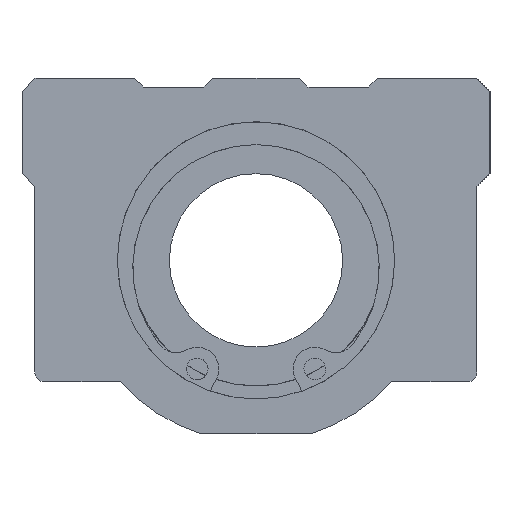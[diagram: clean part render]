
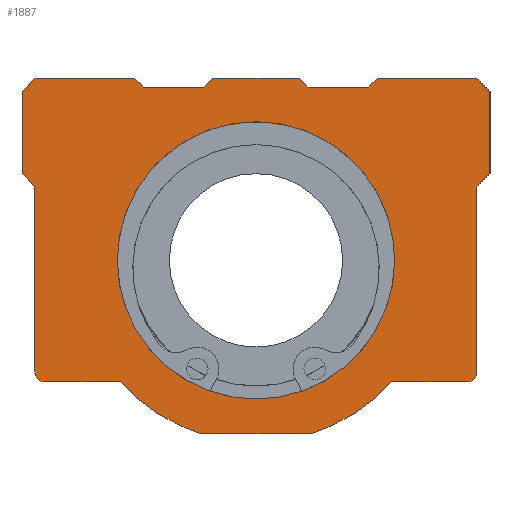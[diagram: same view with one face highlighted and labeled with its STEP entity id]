
A CAD part, left-side view. The second image highlights one B-rep face of the part: STEP entity #1887.
In plain terms, the highlighted planar face has unit normal (-1, 0, 0).
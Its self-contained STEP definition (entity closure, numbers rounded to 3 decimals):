
#1185=CARTESIAN_POINT('',(0.0,16.0,0.));
#1186=VERTEX_POINT('',#1185);
#1187=CARTESIAN_POINT('',(0.0,0.0,0.0));
#1188=DIRECTION('',(1.0,0.0,0.0));
#1189=DIRECTION('',(0.0,-1.0,0.0));
#1190=AXIS2_PLACEMENT_3D('',#1187,#1188,#1189);
#1191=CIRCLE('',#1190,16.0);
#1192=EDGE_CURVE('',#1186,#1186,#1191,.T.);
#1298=CARTESIAN_POINT('',(0.0,6.,20.));
#1299=VERTEX_POINT('',#1298);
#1300=CARTESIAN_POINT('',(0.0,5.,21.));
#1301=VERTEX_POINT('',#1300);
#1302=CARTESIAN_POINT('',(0.0,6.,20.));
#1303=DIRECTION('',(0.0,-0.707,0.707));
#1304=VECTOR('',#1303,1.414);
#1305=LINE('',#1302,#1304);
#1306=EDGE_CURVE('',#1299,#1301,#1305,.T.);
#1348=CARTESIAN_POINT('',(0.0,-5.,21.));
#1349=VERTEX_POINT('',#1348);
#1356=CARTESIAN_POINT('',(0.0,-6.,20.));
#1357=VERTEX_POINT('',#1356);
#1358=CARTESIAN_POINT('',(0.0,-5.,21.));
#1359=DIRECTION('',(0.0,-0.707,-0.707));
#1360=VECTOR('',#1359,1.414);
#1361=LINE('',#1358,#1360);
#1362=EDGE_CURVE('',#1349,#1357,#1361,.T.);
#1385=CARTESIAN_POINT('',(0.0,5.,21.));
#1386=DIRECTION('',(0.0,-1.0,0.0));
#1387=VECTOR('',#1386,10.);
#1388=LINE('',#1385,#1387);
#1389=EDGE_CURVE('',#1301,#1349,#1388,.T.);
#1409=CARTESIAN_POINT('',(0.0,13.0,20.));
#1410=VERTEX_POINT('',#1409);
#1417=CARTESIAN_POINT('',(0.0,13.0,20.));
#1418=DIRECTION('',(0.0,-1.0,0.0));
#1419=VECTOR('',#1418,7.);
#1420=LINE('',#1417,#1419);
#1421=EDGE_CURVE('',#1410,#1299,#1420,.T.);
#1432=CARTESIAN_POINT('',(0.0,-13.,20.));
#1433=VERTEX_POINT('',#1432);
#1434=CARTESIAN_POINT('',(0.0,-6.,20.));
#1435=DIRECTION('',(0.0,-1.0,0.0));
#1436=VECTOR('',#1435,7.);
#1437=LINE('',#1434,#1436);
#1438=EDGE_CURVE('',#1357,#1433,#1437,.T.);
#1473=CARTESIAN_POINT('',(0.0,24.5,-14.));
#1474=VERTEX_POINT('',#1473);
#1481=CARTESIAN_POINT('',(0.0,25.5,-13.));
#1482=VERTEX_POINT('',#1481);
#1483=CARTESIAN_POINT('',(0.0,24.5,-13.));
#1484=DIRECTION('',(1.,0.0,0.0));
#1485=DIRECTION('',(0.0,0.707,-0.707));
#1486=AXIS2_PLACEMENT_3D('',#1483,#1484,#1485);
#1487=CIRCLE('',#1486,1.);
#1488=EDGE_CURVE('',#1474,#1482,#1487,.T.);
#1513=CARTESIAN_POINT('',(0.0,15.652,-14.));
#1514=VERTEX_POINT('',#1513);
#1521=CARTESIAN_POINT('',(0.0,15.652,-14.));
#1522=DIRECTION('',(0.0,1.0,0.0));
#1523=VECTOR('',#1522,8.848);
#1524=LINE('',#1521,#1523);
#1525=EDGE_CURVE('',#1514,#1474,#1524,.T.);
#1719=CARTESIAN_POINT('',(0.0,-25.5,-13.));
#1720=VERTEX_POINT('',#1719);
#1727=CARTESIAN_POINT('',(0.0,-24.5,-14.));
#1728=VERTEX_POINT('',#1727);
#1729=CARTESIAN_POINT('',(0.0,-24.5,-13.));
#1730=DIRECTION('',(1.,0.0,0.0));
#1731=DIRECTION('',(0.0,-0.707,-0.707));
#1732=AXIS2_PLACEMENT_3D('',#1729,#1730,#1731);
#1733=CIRCLE('',#1732,1.);
#1734=EDGE_CURVE('',#1720,#1728,#1733,.T.);
#1745=CARTESIAN_POINT('',(0.0,0.,2.194));
#1746=DIRECTION('',(1.0,0.0,0.0));
#1747=DIRECTION('',(0.0,0.0,-1.0));
#1748=AXIS2_PLACEMENT_3D('',#1745,#1746,#1747);
#1749=PLANE('',#1748);
#1750=ORIENTED_EDGE('',*,*,#1488,.F.);
#1751=ORIENTED_EDGE('',*,*,#1525,.F.);
#1752=CARTESIAN_POINT('',(0.0,6.403,-20.));
#1753=VERTEX_POINT('',#1752);
#1754=CARTESIAN_POINT('',(0.0,0.0,0.0));
#1755=DIRECTION('',(1.,0.0,0.0));
#1756=DIRECTION('',(0.0,0.305,-0.952));
#1757=AXIS2_PLACEMENT_3D('',#1754,#1755,#1756);
#1758=CIRCLE('',#1757,21.0);
#1759=EDGE_CURVE('',#1753,#1514,#1758,.T.);
#1760=ORIENTED_EDGE('',*,*,#1759,.F.);
#1761=CARTESIAN_POINT('',(0.0,-6.403,-20.));
#1762=VERTEX_POINT('',#1761);
#1763=CARTESIAN_POINT('',(0.0,-6.403,-20.));
#1764=DIRECTION('',(0.0,1.0,0.0));
#1765=VECTOR('',#1764,12.806);
#1766=LINE('',#1763,#1765);
#1767=EDGE_CURVE('',#1762,#1753,#1766,.T.);
#1768=ORIENTED_EDGE('',*,*,#1767,.F.);
#1769=CARTESIAN_POINT('',(0.0,-15.652,-14.));
#1770=VERTEX_POINT('',#1769);
#1771=CARTESIAN_POINT('',(0.0,0.0,0.0));
#1772=DIRECTION('',(1.,0.0,0.0));
#1773=DIRECTION('',(0.0,0.305,-0.952));
#1774=AXIS2_PLACEMENT_3D('',#1771,#1772,#1773);
#1775=CIRCLE('',#1774,21.0);
#1776=EDGE_CURVE('',#1770,#1762,#1775,.T.);
#1777=ORIENTED_EDGE('',*,*,#1776,.F.);
#1778=CARTESIAN_POINT('',(0.0,-24.5,-14.));
#1779=DIRECTION('',(0.0,1.0,0.0));
#1780=VECTOR('',#1779,8.848);
#1781=LINE('',#1778,#1780);
#1782=EDGE_CURVE('',#1728,#1770,#1781,.T.);
#1783=ORIENTED_EDGE('',*,*,#1782,.F.);
#1784=ORIENTED_EDGE('',*,*,#1734,.F.);
#1785=CARTESIAN_POINT('',(0.0,-25.5,8.5));
#1786=VERTEX_POINT('',#1785);
#1787=CARTESIAN_POINT('',(0.0,-25.5,8.5));
#1788=DIRECTION('',(0.0,0.0,-1.0));
#1789=VECTOR('',#1788,21.5);
#1790=LINE('',#1787,#1789);
#1791=EDGE_CURVE('',#1786,#1720,#1790,.T.);
#1792=ORIENTED_EDGE('',*,*,#1791,.F.);
#1793=CARTESIAN_POINT('',(0.0,-27.0,10.));
#1794=VERTEX_POINT('',#1793);
#1795=CARTESIAN_POINT('',(0.0,-27.0,10.));
#1796=DIRECTION('',(0.0,0.707,-0.707));
#1797=VECTOR('',#1796,2.121);
#1798=LINE('',#1795,#1797);
#1799=EDGE_CURVE('',#1794,#1786,#1798,.T.);
#1800=ORIENTED_EDGE('',*,*,#1799,.F.);
#1801=CARTESIAN_POINT('',(0.0,-27.0,19.5));
#1802=VERTEX_POINT('',#1801);
#1803=CARTESIAN_POINT('',(0.0,-27.0,19.5));
#1804=DIRECTION('',(0.0,0.0,-1.0));
#1805=VECTOR('',#1804,9.5);
#1806=LINE('',#1803,#1805);
#1807=EDGE_CURVE('',#1802,#1794,#1806,.T.);
#1808=ORIENTED_EDGE('',*,*,#1807,.F.);
#1809=CARTESIAN_POINT('',(0.0,-25.5,21.));
#1810=VERTEX_POINT('',#1809);
#1811=CARTESIAN_POINT('',(0.0,-25.5,21.));
#1812=DIRECTION('',(0.0,-0.707,-0.707));
#1813=VECTOR('',#1812,2.121);
#1814=LINE('',#1811,#1813);
#1815=EDGE_CURVE('',#1810,#1802,#1814,.T.);
#1816=ORIENTED_EDGE('',*,*,#1815,.F.);
#1817=CARTESIAN_POINT('',(0.0,-14.,21.));
#1818=VERTEX_POINT('',#1817);
#1819=CARTESIAN_POINT('',(0.0,-14.,21.));
#1820=DIRECTION('',(0.0,-1.0,0.0));
#1821=VECTOR('',#1820,11.5);
#1822=LINE('',#1819,#1821);
#1823=EDGE_CURVE('',#1818,#1810,#1822,.T.);
#1824=ORIENTED_EDGE('',*,*,#1823,.F.);
#1825=CARTESIAN_POINT('',(0.0,-13.,20.));
#1826=DIRECTION('',(0.0,-0.707,0.707));
#1827=VECTOR('',#1826,1.414);
#1828=LINE('',#1825,#1827);
#1829=EDGE_CURVE('',#1433,#1818,#1828,.T.);
#1830=ORIENTED_EDGE('',*,*,#1829,.F.);
#1831=ORIENTED_EDGE('',*,*,#1438,.F.);
#1832=ORIENTED_EDGE('',*,*,#1362,.F.);
#1833=ORIENTED_EDGE('',*,*,#1389,.F.);
#1834=ORIENTED_EDGE('',*,*,#1306,.F.);
#1835=ORIENTED_EDGE('',*,*,#1421,.F.);
#1836=CARTESIAN_POINT('',(0.0,14.,21.));
#1837=VERTEX_POINT('',#1836);
#1838=CARTESIAN_POINT('',(0.0,14.,21.));
#1839=DIRECTION('',(0.0,-0.707,-0.707));
#1840=VECTOR('',#1839,1.414);
#1841=LINE('',#1838,#1840);
#1842=EDGE_CURVE('',#1837,#1410,#1841,.T.);
#1843=ORIENTED_EDGE('',*,*,#1842,.F.);
#1844=CARTESIAN_POINT('',(0.0,25.5,21.));
#1845=VERTEX_POINT('',#1844);
#1846=CARTESIAN_POINT('',(0.0,25.5,21.));
#1847=DIRECTION('',(0.0,-1.0,0.0));
#1848=VECTOR('',#1847,11.5);
#1849=LINE('',#1846,#1848);
#1850=EDGE_CURVE('',#1845,#1837,#1849,.T.);
#1851=ORIENTED_EDGE('',*,*,#1850,.F.);
#1852=CARTESIAN_POINT('',(0.0,27.0,19.5));
#1853=VERTEX_POINT('',#1852);
#1854=CARTESIAN_POINT('',(0.0,27.0,19.5));
#1855=DIRECTION('',(0.0,-0.707,0.707));
#1856=VECTOR('',#1855,2.121);
#1857=LINE('',#1854,#1856);
#1858=EDGE_CURVE('',#1853,#1845,#1857,.T.);
#1859=ORIENTED_EDGE('',*,*,#1858,.F.);
#1860=CARTESIAN_POINT('',(0.0,27.0,10.));
#1861=VERTEX_POINT('',#1860);
#1862=CARTESIAN_POINT('',(0.0,27.0,10.));
#1863=DIRECTION('',(0.0,0.0,1.0));
#1864=VECTOR('',#1863,9.5);
#1865=LINE('',#1862,#1864);
#1866=EDGE_CURVE('',#1861,#1853,#1865,.T.);
#1867=ORIENTED_EDGE('',*,*,#1866,.F.);
#1868=CARTESIAN_POINT('',(0.0,25.5,8.5));
#1869=VERTEX_POINT('',#1868);
#1870=CARTESIAN_POINT('',(0.0,25.5,8.5));
#1871=DIRECTION('',(0.0,0.707,0.707));
#1872=VECTOR('',#1871,2.121);
#1873=LINE('',#1870,#1872);
#1874=EDGE_CURVE('',#1869,#1861,#1873,.T.);
#1875=ORIENTED_EDGE('',*,*,#1874,.F.);
#1876=CARTESIAN_POINT('',(0.0,25.5,-13.));
#1877=DIRECTION('',(0.0,0.0,1.0));
#1878=VECTOR('',#1877,21.5);
#1879=LINE('',#1876,#1878);
#1880=EDGE_CURVE('',#1482,#1869,#1879,.T.);
#1881=ORIENTED_EDGE('',*,*,#1880,.F.);
#1882=EDGE_LOOP('',(#1750,#1751,#1760,#1768,#1777,#1783,#1784,#1792,#1800,#1808,#1816,#1824,#1830,#1831,#1832,#1833,#1834,#1835,#1843,#1851,#1859,#1867,#1875,#1881));
#1883=FACE_OUTER_BOUND('',#1882,.T.);
#1884=ORIENTED_EDGE('',*,*,#1192,.T.);
#1885=EDGE_LOOP('',(#1884));
#1886=FACE_BOUND('',#1885,.T.);
#1887=ADVANCED_FACE('',(#1883,#1886),#1749,.F.);
